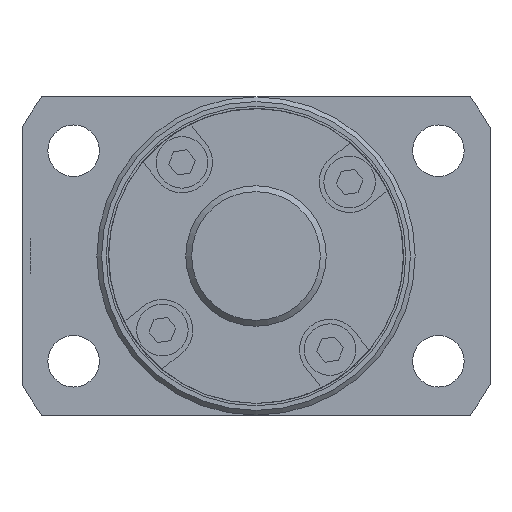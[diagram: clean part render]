
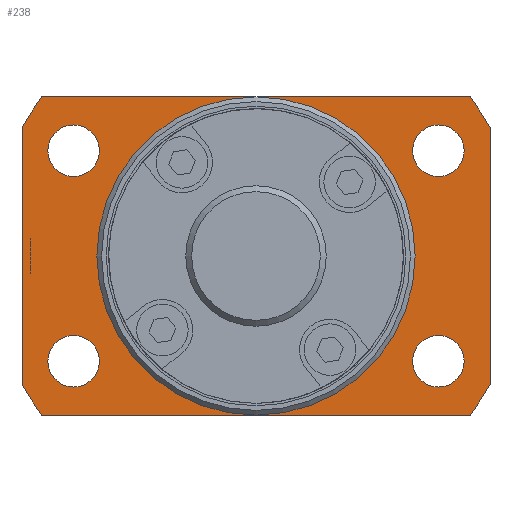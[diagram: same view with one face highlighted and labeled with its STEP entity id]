
A CAD part, left-side view. The second image highlights one B-rep face of the part: STEP entity #238.
In plain terms, the highlighted planar face has unit normal (-1, 0, 0).
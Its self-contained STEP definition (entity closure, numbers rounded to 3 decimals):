
#238 = ADVANCED_FACE( '', ( #437, #438, #439, #440, #441, #442 ), #443, .F. );
#437 = FACE_OUTER_BOUND( '', #689, .T. );
#438 = FACE_BOUND( '', #690, .T. );
#439 = FACE_BOUND( '', #691, .T. );
#440 = FACE_BOUND( '', #692, .T. );
#441 = FACE_BOUND( '', #693, .T. );
#442 = FACE_BOUND( '', #694, .T. );
#443 = PLANE( '', #695 );
#689 = EDGE_LOOP( '', ( #1223, #1224, #1225, #1226, #1227, #1228, #1229, #1230 ) );
#690 = EDGE_LOOP( '', ( #1231 ) );
#691 = EDGE_LOOP( '', ( #1232 ) );
#692 = EDGE_LOOP( '', ( #1233 ) );
#693 = EDGE_LOOP( '', ( #1234 ) );
#694 = EDGE_LOOP( '', ( #1235 ) );
#695 = AXIS2_PLACEMENT_3D( '', #1236, #1237, #1238 );
#1223 = ORIENTED_EDGE( '', *, *, #1586, .F. );
#1224 = ORIENTED_EDGE( '', *, *, #1587, .F. );
#1225 = ORIENTED_EDGE( '', *, *, #1588, .F. );
#1226 = ORIENTED_EDGE( '', *, *, #1589, .F. );
#1227 = ORIENTED_EDGE( '', *, *, #1590, .F. );
#1228 = ORIENTED_EDGE( '', *, *, #1591, .F. );
#1229 = ORIENTED_EDGE( '', *, *, #1592, .F. );
#1230 = ORIENTED_EDGE( '', *, *, #1593, .F. );
#1231 = ORIENTED_EDGE( '', *, *, #1579, .T. );
#1232 = ORIENTED_EDGE( '', *, *, #1575, .T. );
#1233 = ORIENTED_EDGE( '', *, *, #1571, .T. );
#1234 = ORIENTED_EDGE( '', *, *, #1567, .T. );
#1235 = ORIENTED_EDGE( '', *, *, #1594, .T. );
#1236 = CARTESIAN_POINT( '', ( 28.5, 16.5, 0. ) );
#1237 = DIRECTION( '', ( 1., 0., 0. ) );
#1238 = DIRECTION( '', ( 0., 0., -1. ) );
#1567 = EDGE_CURVE( '', #1850, #1850, #1851, .T. );
#1571 = EDGE_CURVE( '', #1858, #1858, #1859, .T. );
#1575 = EDGE_CURVE( '', #1866, #1866, #1867, .T. );
#1579 = EDGE_CURVE( '', #1874, #1874, #1875, .T. );
#1586 = EDGE_CURVE( '', #1888, #1889, #1890, .T. );
#1587 = EDGE_CURVE( '', #1891, #1888, #1892, .T. );
#1588 = EDGE_CURVE( '', #1893, #1891, #1894, .T. );
#1589 = EDGE_CURVE( '', #1895, #1893, #1896, .T. );
#1590 = EDGE_CURVE( '', #1897, #1895, #1898, .T. );
#1591 = EDGE_CURVE( '', #1899, #1897, #1900, .T. );
#1592 = EDGE_CURVE( '', #1901, #1899, #1902, .T. );
#1593 = EDGE_CURVE( '', #1889, #1901, #1903, .T. );
#1594 = EDGE_CURVE( '', #1904, #1904, #1905, .T. );
#1850 = VERTEX_POINT( '', #2315 );
#1851 = CIRCLE( '', #2316, 2.75 );
#1858 = VERTEX_POINT( '', #2323 );
#1859 = CIRCLE( '', #2324, 2.75 );
#1866 = VERTEX_POINT( '', #2331 );
#1867 = CIRCLE( '', #2332, 2.75 );
#1874 = VERTEX_POINT( '', #2339 );
#1875 = CIRCLE( '', #2340, 2.75 );
#1888 = VERTEX_POINT( '', #2353 );
#1889 = VERTEX_POINT( '', #2354 );
#1890 = CIRCLE( '', #2355, 28.5 );
#1891 = VERTEX_POINT( '', #2356 );
#1892 = LINE( '', #2357, #2358 );
#1893 = VERTEX_POINT( '', #2359 );
#1894 = CIRCLE( '', #2360, 28.5 );
#1895 = VERTEX_POINT( '', #2361 );
#1896 = LINE( '', #2362, #2363 );
#1897 = VERTEX_POINT( '', #2364 );
#1898 = CIRCLE( '', #2365, 28.5 );
#1899 = VERTEX_POINT( '', #2366 );
#1900 = LINE( '', #2367, #2368 );
#1901 = VERTEX_POINT( '', #2369 );
#1902 = CIRCLE( '', #2370, 28.5 );
#1903 = LINE( '', #2371, #2372 );
#1904 = VERTEX_POINT( '', #2373 );
#1905 = CIRCLE( '', #2374, 16.5 );
#2315 = CARTESIAN_POINT( '', ( 28.5, 19.486, 8.5 ) );
#2316 = AXIS2_PLACEMENT_3D( '', #2626, #2627, #2628 );
#2323 = CARTESIAN_POINT( '', ( 28.5, -19.486, -14. ) );
#2324 = AXIS2_PLACEMENT_3D( '', #2638, #2639, #2640 );
#2331 = CARTESIAN_POINT( '', ( 28.5, -19.486, 8.5 ) );
#2332 = AXIS2_PLACEMENT_3D( '', #2650, #2651, #2652 );
#2339 = CARTESIAN_POINT( '', ( 28.5, 19.486, -14. ) );
#2340 = AXIS2_PLACEMENT_3D( '', #2662, #2663, #2664 );
#2353 = CARTESIAN_POINT( '', ( 28.5, 25., 13.684 ) );
#2354 = CARTESIAN_POINT( '', ( 28.5, 22.875, 17. ) );
#2355 = AXIS2_PLACEMENT_3D( '', #2683, #2684, #2685 );
#2356 = CARTESIAN_POINT( '', ( 28.5, 25., -13.684 ) );
#2357 = CARTESIAN_POINT( '', ( 28.5, 25., -13.684 ) );
#2358 = VECTOR( '', #2686, 1000. );
#2359 = CARTESIAN_POINT( '', ( 28.5, 22.875, -17. ) );
#2360 = AXIS2_PLACEMENT_3D( '', #2687, #2688, #2689 );
#2361 = CARTESIAN_POINT( '', ( 28.5, -22.875, -17. ) );
#2362 = CARTESIAN_POINT( '', ( 28.5, -22.875, -17. ) );
#2363 = VECTOR( '', #2690, 1000. );
#2364 = CARTESIAN_POINT( '', ( 28.5, -25., -13.684 ) );
#2365 = AXIS2_PLACEMENT_3D( '', #2691, #2692, #2693 );
#2366 = CARTESIAN_POINT( '', ( 28.5, -25., 13.684 ) );
#2367 = CARTESIAN_POINT( '', ( 28.5, -25., 13.684 ) );
#2368 = VECTOR( '', #2694, 1000. );
#2369 = CARTESIAN_POINT( '', ( 28.5, -22.875, 17. ) );
#2370 = AXIS2_PLACEMENT_3D( '', #2695, #2696, #2697 );
#2371 = CARTESIAN_POINT( '', ( 28.5, 22.875, 17. ) );
#2372 = VECTOR( '', #2698, 1000. );
#2373 = CARTESIAN_POINT( '', ( 28.5, 0., -16.5 ) );
#2374 = AXIS2_PLACEMENT_3D( '', #2699, #2700, #2701 );
#2626 = CARTESIAN_POINT( '', ( 28.5, 19.486, 11.25 ) );
#2627 = DIRECTION( '', ( 1., 0., 0. ) );
#2628 = DIRECTION( '', ( 0., 0., -1. ) );
#2638 = CARTESIAN_POINT( '', ( 28.5, -19.486, -11.25 ) );
#2639 = DIRECTION( '', ( 1., 0., 0. ) );
#2640 = DIRECTION( '', ( 0., 0., -1. ) );
#2650 = CARTESIAN_POINT( '', ( 28.5, -19.486, 11.25 ) );
#2651 = DIRECTION( '', ( 1., 0., 0. ) );
#2652 = DIRECTION( '', ( 0., 0., -1. ) );
#2662 = CARTESIAN_POINT( '', ( 28.5, 19.486, -11.25 ) );
#2663 = DIRECTION( '', ( 1., 0., 0. ) );
#2664 = DIRECTION( '', ( 0., 0., -1. ) );
#2683 = CARTESIAN_POINT( '', ( 28.5, 0., 0. ) );
#2684 = DIRECTION( '', ( 1., 0., 0. ) );
#2685 = DIRECTION( '', ( 0., 0., -1. ) );
#2686 = DIRECTION( '', ( 0., 0., 1. ) );
#2687 = CARTESIAN_POINT( '', ( 28.5, 0., 0. ) );
#2688 = DIRECTION( '', ( 1., 0., 0. ) );
#2689 = DIRECTION( '', ( 0., 0., -1. ) );
#2690 = DIRECTION( '', ( 0., 1., 0. ) );
#2691 = CARTESIAN_POINT( '', ( 28.5, 0., 0. ) );
#2692 = DIRECTION( '', ( 1., 0., 0. ) );
#2693 = DIRECTION( '', ( 0., 0., -1. ) );
#2694 = DIRECTION( '', ( 0., 0., -1. ) );
#2695 = CARTESIAN_POINT( '', ( 28.5, 0., 0. ) );
#2696 = DIRECTION( '', ( 1., 0., 0. ) );
#2697 = DIRECTION( '', ( 0., 0., -1. ) );
#2698 = DIRECTION( '', ( 0., -1., 0. ) );
#2699 = CARTESIAN_POINT( '', ( 28.5, 0., 0. ) );
#2700 = DIRECTION( '', ( 1., 0., 0. ) );
#2701 = DIRECTION( '', ( 0., 0., -1. ) );
